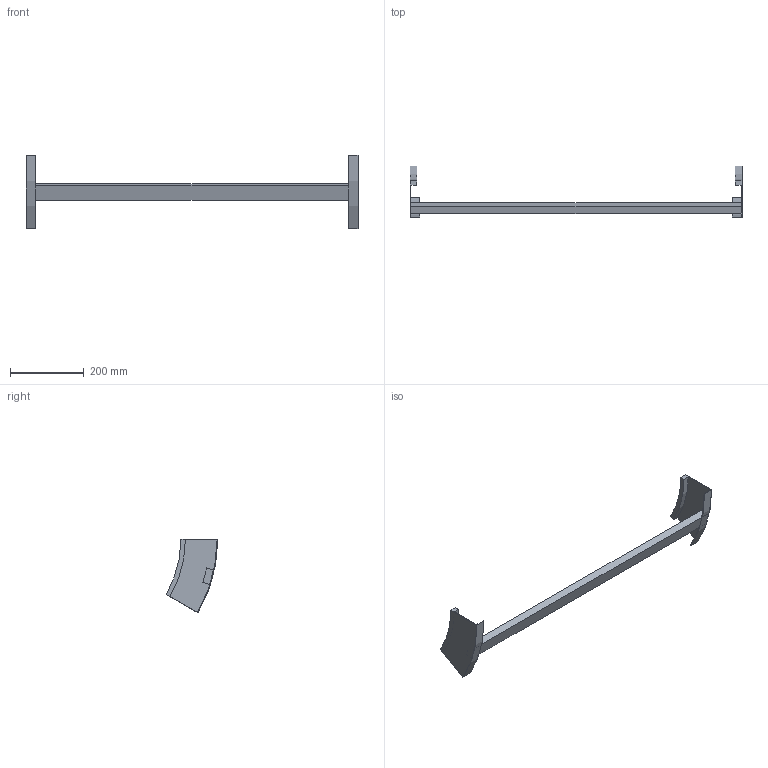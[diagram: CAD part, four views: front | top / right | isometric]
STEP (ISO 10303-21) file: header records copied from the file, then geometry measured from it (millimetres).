
FILE_DESCRIPTION (( 'STEP AP214' ), '1' );
FILE_NAME ('B2X32B3D900XX.step', '2025-03-20T09:58:27', ( '' ), ( '' ), 'SwSTEP 2.0', 'SolidWorks 2023', '' );
FILE_SCHEMA (( 'AUTOMOTIVE_DESIGN' ));
Length unit declared in the file: millimetre
Products named in the file (3): B2X32B3D900XX; B2_LONGH.SALITA_30°_H100_R300; TRAVERSINO_900
Assembly tree (3 placements, depth 2):
  B2X32B3D900XX
    B2_LONGH.SALITA_30°_H100_R300  x2
    TRAVERSINO_900
Bounding box: 900 x 140.19 x 200 mm (x, y, z)
Volume: 881480.4 mm3; surface area: 217719.7 mm2
Topology: 3 solids, 3 shells, 26 faces, 60 edges, 40 vertices
Faces by surface type: plane 18, cylinder 8
Entity records: 544 total; most frequent: DIRECTION 88, CARTESIAN_POINT 82, ORIENTED_EDGE 72, EDGE_CURVE 36, AXIS2_PLACEMENT_3D 30, LINE 28, VECTOR 28, VERTEX_POINT 24
